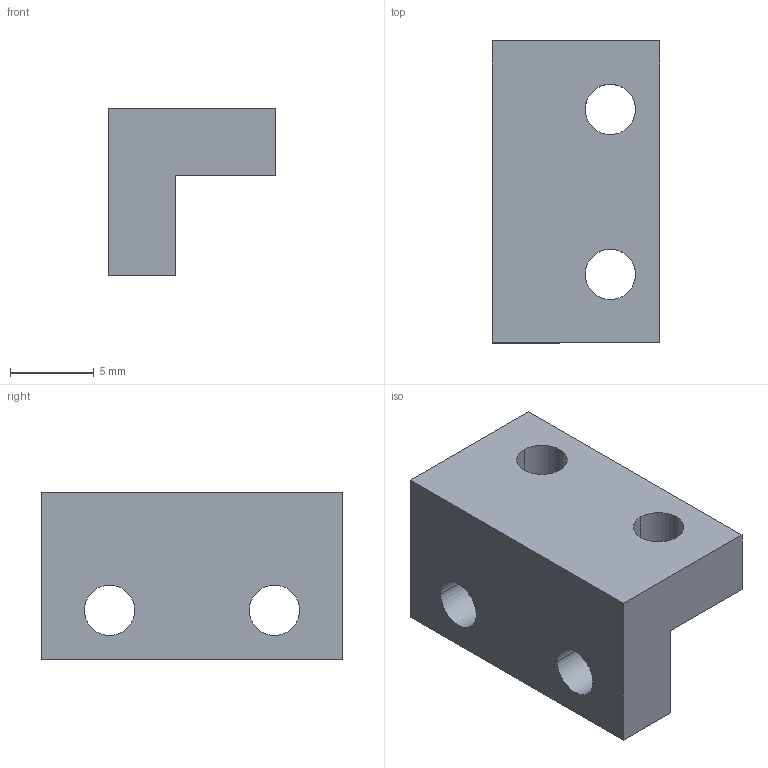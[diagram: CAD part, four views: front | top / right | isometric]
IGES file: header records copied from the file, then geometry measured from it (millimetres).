
Start section:  PTC IGES file: UC3-R01.igs
Global section: file name: UC3-R01.igs; native system: Creo Parametric by PTC Inc.; preprocessor: 2016130; author: Jason; organization: Unknown; date: 20180829.171238; units: millimetre
Bounding box: 10 x 18 x 10 mm (x, y, z)
Surface area: 942.2 mm2 (no closed solid volume)
Topology: 0 solids, 0 shells, 16 faces, 84 edges, 84 vertices
Faces by surface type: bspline 8, revolution 8
